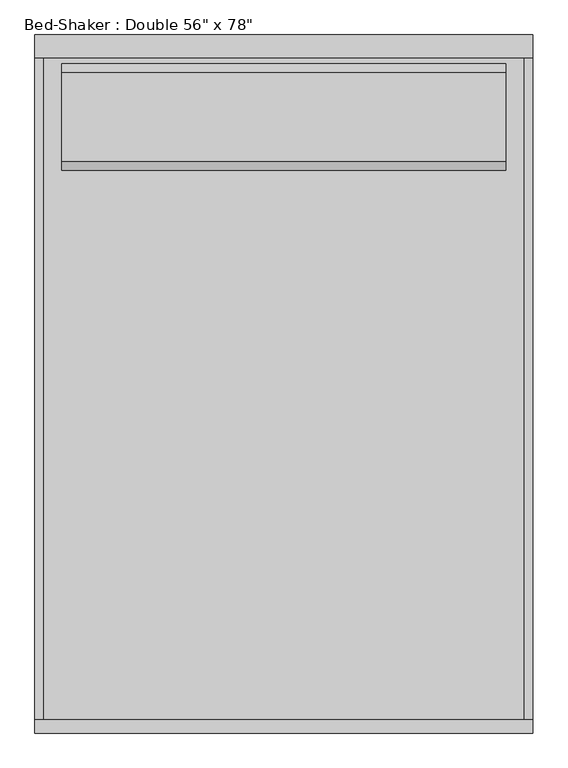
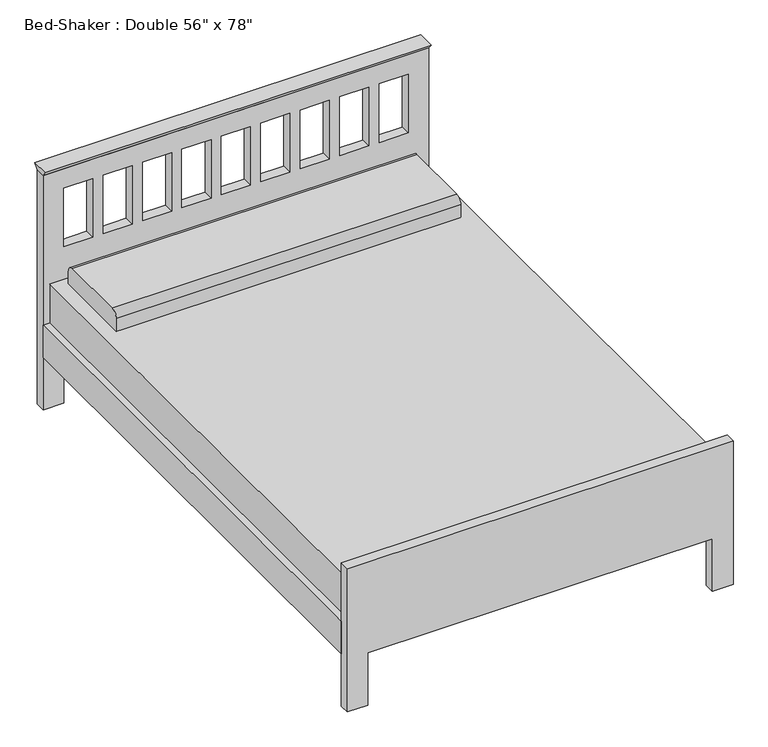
"""IFC4 building model written with IfcOpenShell, lengths in millimetres: furniture geometry."""

from ifc_helpers import new_model, si_unit, point, frame, frame_2d, origin, place, context, project, spatial, polyline, circle_curve, trimmed, segment, composite_curve, outline, extrude, source, transform, mapped, element, save


def furniture_096e7f55(model_context):
    return source(origin(), model_context, "Body", "SweptSolid", [
        extrude(outline(polyline([(-38.1, 914.4), (-51.9545455, 933.45), (13.8545455, 933.45), (0.0, 914.4), (-38.1, 914.4)])), frame((-730.0365546, 0.0, 0.0), z_axis=(1.0, 0.0, 0.0), x_axis=(0.0, 1.0, 0.0)), (0.0, 0.0, 1.0), 1422.4533613),
        extrude(outline(composite_curve([segment(polyline([(-373.2486637, 482.6), (-373.2486637, 533.4)]), True, "CONTINUOUS"), segment(trimmed(circle_curve(frame_2d((-347.8486637, 533.4)), 25.4), [point((-373.2486637, 533.4))], [point((-347.8486637, 558.8))], False, "CARTESIAN"), True, "CONTINUOUS"), segment(polyline([(-347.8486637, 558.8), (-93.8486637, 558.8)]), True, "CONTINUOUS"), segment(trimmed(circle_curve(frame_2d((-93.8486637, 533.4)), 25.4), [point((-93.8486637, 558.8))], [point((-68.4486637, 533.4))], False, "CARTESIAN"), True, "CONTINUOUS"), segment(polyline([(-68.4486637, 533.4), (-68.4486637, 482.6), (-373.2486637, 482.6)]), True, "CONTINUOUS")], self_intersect=False)), frame((-654.05, 0.0, 0.0), z_axis=(1.0, 0.0, 0.0), x_axis=(0.0, 1.0, 0.0)), (0.0, 0.0, 1.0), 1270.0),
        extrude(outline(polyline([(666.75, -38.1), (666.75, -1943.1), (-704.85, -1943.1), (-704.85, -38.1), (666.75, -38.1)])), frame((0.0, 0.0, 228.6), z_axis=(0.0, 0.0, 1.0), x_axis=(1.0, 0.0, 0.0)), (0.0, 0.0, 1.0), 254.0),
        extrude(outline(polyline([(666.75, -1943.1), (666.75, -38.1), (692.15, -38.1), (692.15, -1943.1), (666.75, -1943.1)])), frame((0.0, 0.0, 203.0994861), z_axis=(0.0, 0.0, 1.0), x_axis=(1.0, 0.0, 0.0)), (0.0, 0.0, 1.0), 127.0),
        extrude(outline(polyline([(-730.25, -1943.1), (-730.25, -38.1), (-704.85, -38.1), (-704.85, -1943.1), (-730.25, -1943.1)])), frame((0.0, 0.0, 203.5755296), z_axis=(0.0, 0.0, 1.0), x_axis=(1.0, 0.0, 0.0)), (0.0, 0.0, 1.0), 127.0),
        extrude(outline(polyline([(0.0, -654.05), (203.2, -654.05), (203.2, 615.95), (0.0, 615.95), (0.0, 692.15), (558.8, 692.15), (558.8, -730.25), (0.0, -730.25), (0.0, -654.05)])), frame((0.0, -1981.2, 0.0), z_axis=(0.0, 1.0, 0.0), x_axis=(0.0, 0.0, 1.0)), (0.0, 0.0, 1.0), 38.1),
        extrude(outline(polyline([(914.4, 692.4168067), (914.4, -730.0365546), (0.0, -730.0365546), (0.0, -654.05), (203.2, -654.05), (203.2, 615.95), (0.0, 615.95), (0.0, 692.4168067), (914.4, 692.4168067)]), holes=[polyline([(838.2, -546.8055556), (609.6, -546.8055556), (609.6, -654.05), (838.2, -654.05), (838.2, -546.8055556)]), polyline([(838.2, -401.4611111), (609.6, -401.4611111), (609.6, -508.7055556), (838.2, -508.7055556), (838.2, -401.4611111)]), polyline([(838.2, -256.1166667), (609.6, -256.1166667), (609.6, -363.3611111), (838.2, -363.3611111), (838.2, -256.1166667)]), polyline([(838.2, -110.7722222), (609.6, -110.7722222), (609.6, -218.0166667), (838.2, -218.0166667), (838.2, -110.7722222)]), polyline([(838.2, 179.9166667), (609.6, 179.9166667), (609.6, 72.6722222), (838.2, 72.6722222), (838.2, 179.9166667)]), polyline([(838.2, 325.2611111), (609.6, 325.2611111), (609.6, 218.0166667), (838.2, 218.0166667), (838.2, 325.2611111)]), polyline([(838.2, 470.6055556), (609.6, 470.6055556), (609.6, 363.3611111), (838.2, 363.3611111), (838.2, 470.6055556)]), polyline([(838.2, 615.95), (609.6, 615.95), (609.6, 508.7055556), (838.2, 508.7055556), (838.2, 615.95)]), polyline([(838.2, 34.5722222), (609.6, 34.5722222), (609.6, -72.6722222), (838.2, -72.6722222), (838.2, 34.5722222)])]), frame((0.0, -38.1, 0.0), z_axis=(0.0, 1.0, 0.0), x_axis=(0.0, 0.0, 1.0)), (0.0, 0.0, 1.0), 38.1),
    ])


if __name__ == "__main__":
    model = new_model("IFC4")
    model_context = context("Model", 3, world=origin())
    ifc_project = project(units=[si_unit("LENGTHUNIT", "METRE", prefix="MILLI")], contexts=[model_context])
    site = spatial("IfcSite", under=ifc_project)
    building = spatial("IfcBuilding", under=site)
    placement = place(None, origin())
    furniture_shape = furniture_096e7f55(model_context)
    element("IfcFurniture", 1, ObjectType="Bed-Shaker : Double 56\" x 78\"", at=placement, inside=building, context=model_context, shape_type="MappedRepresentation", body=[
        mapped(furniture_shape, transform((0.0, 0.0, 0.0), x_axis=(1.0, 0.0, 0.0), y_axis=(0.0, 1.0, 0.0), z_axis=(0.0, 0.0, 1.0))),
    ])
    save(model, "model.ifc")
